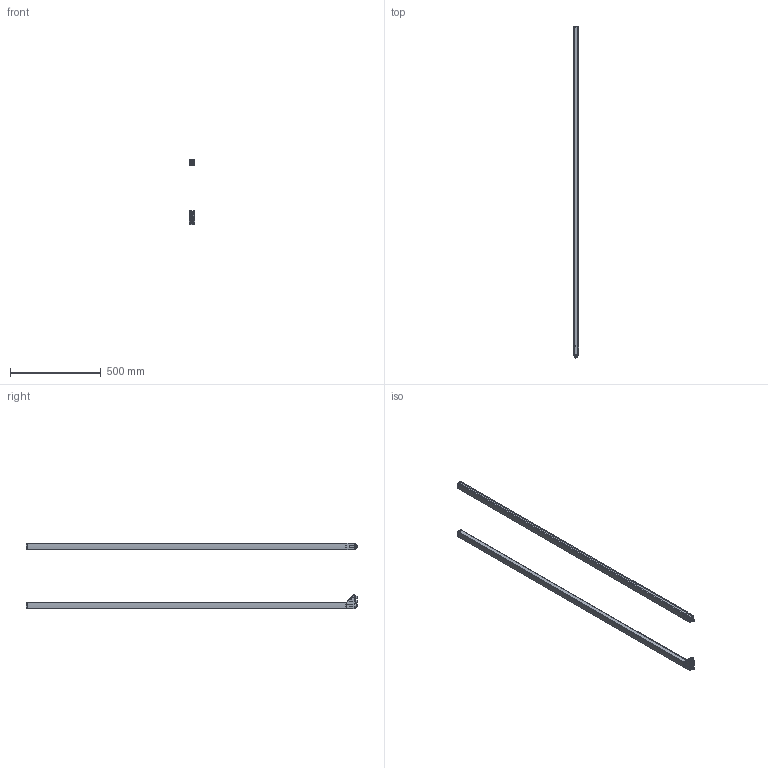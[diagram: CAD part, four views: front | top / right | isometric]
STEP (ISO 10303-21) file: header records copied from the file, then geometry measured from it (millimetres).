
FILE_DESCRIPTION(/* description */ (''),/* implementation_level */ '2;1');
FILE_NAME(/* name */ '3DCAD_CML700i_PN_1760.stp',/* time_stamp */ '2017-09-19T12:04:31+02:00',/* author */ ('CC2'),/* organization */ ('Leuze electronic'),/* preprocessor_version */ 'ST-DEVELOPER v15',/* originating_system */ 'SIEMENS PLM Software NX 8.5',/* authorisation */ '');
FILE_SCHEMA (('AUTOMOTIVE_DESIGN { 1 0 10303 214 3 1 1 1 }'));
Length unit declared in the file: millimetre
Products named in the file (8): 002502_00.0; 002491_00.0; 009185_00.0; 002486_00.0; 005341_00.0; 005339_00.0; 009183_00.0_MODEL; 19-102661_00.0
Assembly tree (8 placements, depth 3):
  19-102661_00.0
    009183_00.0_MODEL
      005341_00.0
      002486_00.0
      009185_00.0
    005339_00.0
      005341_00.0
      002491_00.0
      002502_00.0
Bounding box: 28.99 x 1832.8 x 361.11 mm (x, y, z)
Volume: 3226385.4 mm3; surface area: 572403.3 mm2
Topology: 7 solids, 7 shells, 2495 faces, 6548 edges, 4164 vertices
Faces by surface type: plane 973, cylinder 625, bspline 419, cone 176, extrusion 133, torus 120, sphere 29, revolution 20
Full cylindrical faces by diameter (mm): 0.4 x1, 0.75 x1, 0.85 x1, 1 x18, 2 x2, 2.6 x26, 3.2 x2, 3.5 x4, 4 x2, 6.7 x4, 7 x6, 8.6 x2, 9.3 x2, 10.8 x1, 11 x2, 12 x2, 18 x2
Entity records: 108410 total; most frequent: CARTESIAN_POINT 51571, ORIENTED_EDGE 12056, DIRECTION 10184, EDGE_CURVE 6028, VERTEX_POINT 3928, AXIS2_PLACEMENT_3D 3657, VECTOR 2850, EDGE_LOOP 2752
